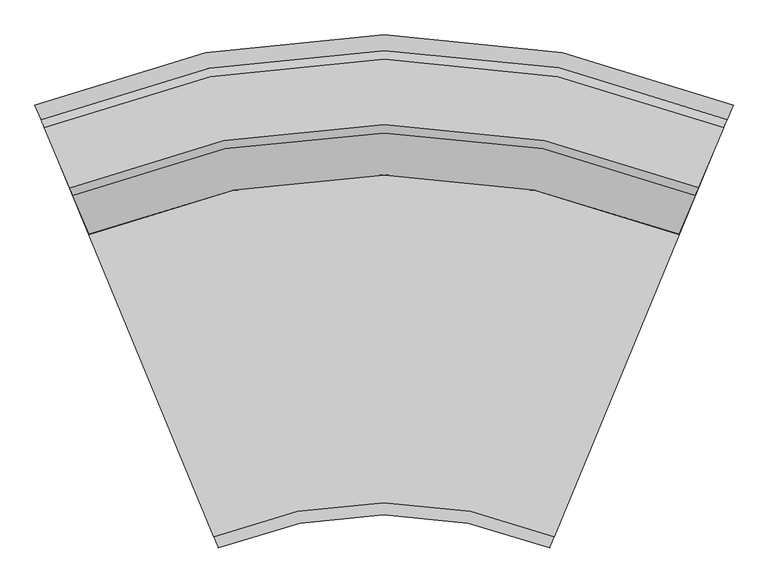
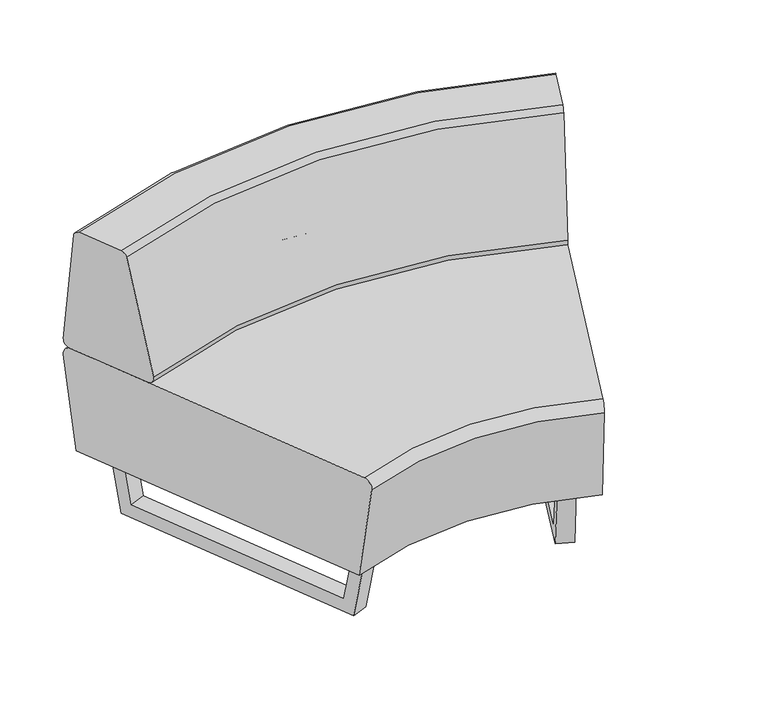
"""IFC4 building model written with IfcOpenShell, lengths in millimetres: furniture geometry, Furniture-Sofa-LyndonDesign-Us_US_8 : Furniture-Sofa-LyndonDesign-Us_US_8."""

from ifc_helpers import new_model, si_unit, point, frame, origin, place, context, project, spatial, polyline, circle_curve, ellipse_curve, trimmed, outline, extrude, source, transform, mapped, element, save
from ifc_brep_helpers import plane_surface, revolved_surface, advanced_brep


def furniture_e1e32eb0(model_context):
    return source(origin(), model_context, "Body", "SolidModel", [
        advanced_brep(
        [(-572.5992558, 632.323578, 400.0), (-495.1476878, 447.6652281, 400.0), (-488.9569699, 432.9054527, 418.8659125), (-515.8753379, 497.0836424, 688.2685098), (-521.2135992, 509.8110092, 698.9837746), (-563.1985723, 609.9106722, 699.1667853), (-568.8247333, 623.3244433, 685.8398745), (-578.872961, 647.2812099, 416.4948981), (572.6439331, 632.4239208, 400.0), (578.9150171, 647.3826518, 416.4948981), (568.8709876, 623.4241248, 685.8398745), (563.2471773, 610.009368, 699.1667853), (521.2797456, 509.9023493, 698.9837746), (515.9437147, 497.1740473, 688.2685098), (489.0365933, 432.9911416, 418.8659125), (495.2247247, 447.7520016, 400.0)],
        [
            (0, 1),
            (1, 2, circle_curve(frame((-495.1476878, 447.6652281, 416.2223431), z_axis=(-0.9221690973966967, -0.3867869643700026, 0.0), x_axis=(-0.3867869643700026, 0.9221690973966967, 0.0)), 16.2223431)),
            (2, 3, circle_curve(frame((-1085.5149144, 1855.2059744, 164.1228604), z_axis=(-0.9221690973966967, -0.3867869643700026, 0.0), x_axis=(-0.3867869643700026, 0.9221690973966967, 0.0)), 1563.2383624)),
            (3, 4, circle_curve(frame((-521.7867132, 511.1774152, 682.829243), z_axis=(-0.9221690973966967, -0.3867869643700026, 0.0), x_axis=(-0.3867869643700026, 0.9221690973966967, 0.0)), 16.2223431)),
            (4, 5, circle_curve(frame((-542.5992446, 560.7982014, 96.1803965), z_axis=(-0.9221690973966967, -0.3867869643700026, 0.0), x_axis=(-0.3867869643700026, 0.9221690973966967, 0.0)), 605.3337527)),
            (5, 6, circle_curve(frame((-562.6465308, 608.5945068, 683.0073493), z_axis=(-0.9221690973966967, -0.3867869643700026, 0.0), x_axis=(-0.3867869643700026, 0.9221690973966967, 0.0)), 16.2223431)),
            (6, 7, circle_curve(frame((81.2093216, -926.4726619, 387.8182679), z_axis=(-0.9221690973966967, -0.3867869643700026, 0.0), x_axis=(-0.3867869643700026, 0.9221690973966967, 0.0)), 1706.8193278)),
            (7, 0, circle_curve(frame((-572.5992558, 632.323578, 416.2223431), z_axis=(-0.9221690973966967, -0.3867869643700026, 0.0), x_axis=(-0.3867869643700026, 0.9221690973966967, 0.0)), 16.2223431)),
            (8, 9, circle_curve(frame((572.6439331, 632.4239208, 416.2223431), z_axis=(0.9222368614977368, -0.38662536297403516, 0.0), x_axis=(0.38662536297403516, 0.9222368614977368, 0.0)), 16.2223431)),
            (9, 10, circle_curve(frame((-80.89148, -926.4868647, 387.8182679), z_axis=(0.9222368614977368, -0.38662536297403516, 0.0), x_axis=(0.38662536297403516, 0.9222368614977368, 0.0)), 1706.8193278)),
            (10, 11, circle_curve(frame((562.6953664, 608.6931059, 683.0073493), z_axis=(0.9222368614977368, -0.38662536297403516, 0.0), x_axis=(0.38662536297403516, 0.9222368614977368, 0.0)), 16.2223431)),
            (11, 12, circle_curve(frame((542.656456, 560.8932883, 96.1803965), z_axis=(0.9222368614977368, -0.38662536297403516, 0.0), x_axis=(0.38662536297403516, 0.9222368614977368, 0.0)), 605.3337527)),
            (12, 13, circle_curve(frame((521.8526202, 511.2688558, 682.829243), z_axis=(0.9222368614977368, -0.38662536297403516, 0.0), x_axis=(0.38662536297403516, 0.9222368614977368, 0.0)), 16.2223431)),
            (13, 14, circle_curve(frame((1085.3452931, 1855.3961788, 164.1228604), z_axis=(0.9222368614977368, -0.38662536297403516, 0.0), x_axis=(0.38662536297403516, 0.9222368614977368, 0.0)), 1563.2383624)),
            (14, 15, circle_curve(frame((495.2247247, 447.7520016, 416.2223431), z_axis=(0.9222368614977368, -0.38662536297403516, 0.0), x_axis=(0.38662536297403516, 0.9222368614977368, 0.0)), 16.2223431)),
            (15, 8),
            (15, 1, circle_curve(frame((0.1419856, -733.1936765, 400.0), z_axis=(0.0, 0.0, 1.0), x_axis=(-0.38678696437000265, 0.9221690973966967, 0.0)), 1280.5231794)),
            (0, 8, circle_curve(frame((0.1419856, -733.1936765, 400.0), z_axis=(0.0, 0.0, -1.0), x_axis=(-0.38678696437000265, 0.9221690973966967, 0.0)), 1480.7666602)),
            (14, 2, circle_curve(frame((0.1419856, -733.1936765, 418.8659125), z_axis=(0.0, 0.0, 1.0), x_axis=(-0.38678696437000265, 0.9221690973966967, 0.0)), 1264.5176818)),
            (13, 3, circle_curve(frame((0.1419856, -733.1936765, 688.2685098), z_axis=(0.0, 0.0, 1.0), x_axis=(-0.38678696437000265, 0.9221690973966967, 0.0)), 1334.1124988)),
            (12, 4, circle_curve(frame((0.1419856, -733.1936765, 698.9837746), z_axis=(0.0, 0.0, 1.0), x_axis=(-0.38678696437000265, 0.9221690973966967, 0.0)), 1347.914053)),
            (11, 5, circle_curve(frame((0.1419856, -733.1936765, 699.1667853), z_axis=(0.0, 0.0, 1.0), x_axis=(-0.38678696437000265, 0.9221690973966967, 0.0)), 1456.4621093)),
            (10, 6, circle_curve(frame((0.1419856, -733.1936765, 685.8398745), z_axis=(0.0, 0.0, 1.0), x_axis=(-0.38678696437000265, 0.9221690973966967, 0.0)), 1471.0080002)),
            (9, 7, circle_curve(frame((0.1419856, -733.1936765, 416.4948981), z_axis=(0.0, 0.0, 1.0), x_axis=(-0.38678696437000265, 0.9221690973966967, 0.0)), 1496.9867135)),
        ],
        [
            plane_surface(frame((-578.9493307, 647.4632888, 400.0), z_axis=(-0.9221690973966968, -0.38678696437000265, 0.0), x_axis=(0.0, 0.0, 1.0))),
            plane_surface(frame((578.9913549, 647.5647442, 400.0), z_axis=(0.9222368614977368, -0.38662536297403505, 0.0), x_axis=(0.0, 0.0, 1.0))),
            plane_surface(frame((0.1419856, -733.1936765, 400.0), z_axis=(0.0, 0.0, -1.0), x_axis=(-0.38678696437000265, 0.9221690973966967, 0.0))),
            revolved_surface(trimmed(ellipse_curve(frame((-495.1476878, 447.6652281, 416.2223431), z_axis=(-0.9221690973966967, -0.3867869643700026, 0.0), x_axis=(-0.3867869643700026, 0.9221690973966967, 0.0)), 16.2223431, 16.2223431), [point((-495.1476878, 447.6652281, 400.0))], [point((-488.9569699, 432.9054527, 418.8659125))], True, "CARTESIAN"), (0.1419856, -733.1936765, 400.0), (0.0, 0.0, -1.0)),
            revolved_surface(trimmed(ellipse_curve(frame((-1085.5149144, 1855.2059744, 164.1228604), z_axis=(-0.9221690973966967, -0.3867869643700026, 0.0), x_axis=(-0.3867869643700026, 0.9221690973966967, 0.0)), 1563.2383624, 1563.2383624), [point((-488.9569699, 432.9054527, 418.8659125))], [point((-515.8753379, 497.0836424, 688.2685098))], True, "CARTESIAN"), (0.1419856, -733.1936765, 400.0), (0.0, 0.0, -1.0)),
            revolved_surface(trimmed(ellipse_curve(frame((-521.7867132, 511.1774152, 682.829243), z_axis=(-0.9221690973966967, -0.3867869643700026, 0.0), x_axis=(-0.3867869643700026, 0.9221690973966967, 0.0)), 16.2223431, 16.2223431), [point((-515.8753379, 497.0836424, 688.2685098))], [point((-521.2135992, 509.8110092, 698.9837746))], True, "CARTESIAN"), (0.1419856, -733.1936765, 400.0), (0.0, 0.0, -1.0)),
            revolved_surface(trimmed(ellipse_curve(frame((-542.5992446, 560.7982014, 96.1803965), z_axis=(-0.9221690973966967, -0.3867869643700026, 0.0), x_axis=(-0.3867869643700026, 0.9221690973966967, 0.0)), 605.3337527, 605.3337527), [point((-521.2135992, 509.8110092, 698.9837746))], [point((-563.1985723, 609.9106722, 699.1667853))], True, "CARTESIAN"), (0.1419856, -733.1936765, 400.0), (0.0, 0.0, -1.0)),
            revolved_surface(trimmed(ellipse_curve(frame((-562.6465308, 608.5945068, 683.0073493), z_axis=(-0.9221690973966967, -0.3867869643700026, 0.0), x_axis=(-0.3867869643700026, 0.9221690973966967, 0.0)), 16.2223431, 16.2223431), [point((-563.1985723, 609.9106722, 699.1667853))], [point((-568.8247333, 623.3244433, 685.8398745))], True, "CARTESIAN"), (0.1419856, -733.1936765, 400.0), (0.0, 0.0, -1.0)),
            revolved_surface(trimmed(ellipse_curve(frame((81.2093216, -926.4726619, 387.8182679), z_axis=(-0.9221690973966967, -0.3867869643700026, 0.0), x_axis=(-0.3867869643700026, 0.9221690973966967, 0.0)), 1706.8193278, 1706.8193278), [point((-568.8247333, 623.3244433, 685.8398745))], [point((-578.872961, 647.2812099, 416.4948981))], True, "CARTESIAN"), (0.1419856, -733.1936765, 400.0), (0.0, 0.0, -1.0)),
            revolved_surface(trimmed(ellipse_curve(frame((-572.5992558, 632.323578, 416.2223431), z_axis=(-0.9221690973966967, -0.3867869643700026, 0.0), x_axis=(-0.3867869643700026, 0.9221690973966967, 0.0)), 16.2223431, 16.2223431), [point((-578.872961, 647.2812099, 416.4948981))], [point((-572.5992558, 632.323578, 400.0))], True, "CARTESIAN"), (0.1419856, -733.1936765, 400.0), (0.0, 0.0, -1.0)),
        ],
        [
            (0, [[1, 2, 3, 4, 5, 6, 7, 8]]),
            (1, [[9, 10, 11, 12, 13, 14, 15, 16]]),
            (2, [[17, -1, 18, -16]]),
            (3, [[19, -2, -17, -15]]),
            (4, [[20, -3, -19, -14]]),
            (5, [[21, -4, -20, -13]]),
            (6, [[22, -5, -21, -12]]),
            (7, [[23, -6, -22, -11]]),
            (8, [[24, -7, -23, -10]]),
            (9, [[-18, -8, -24, -9]]),
        ],
    ),
        advanced_brep(
        [(571.3376862, 629.0871535, 400.0), (282.1461707, -69.0829254, 400.0), (274.5350749, -87.4577362, 377.8934504), (287.1059633, -57.1089268, 150.0008635), (566.3714799, 617.0976709, 150.0008635), (578.9493307, 647.4632888, 377.9070309), (-571.3376862, 629.0871535, 400.0), (-578.9493307, 647.4632888, 377.9070309), (-566.3714799, 617.0976709, 150.0008635), (-287.1059633, -57.1089268, 150.0008635), (-274.5350749, -87.4577362, 377.8934504), (-282.1461707, -69.0829254, 400.0)],
        [
            (0, 1),
            (1, 2, circle_curve(frame((282.1461707, -69.0829254, 380.0), z_axis=(0.923879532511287, -0.3826834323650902, 0.0), x_axis=(-0.3826834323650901, -0.9238795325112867, 0.0)), 20.0)),
            (2, 3, circle_curve(frame((1438.9244518, 2723.6268894, 700.1655651), z_axis=(0.923879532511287, -0.3826834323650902, 0.0), x_axis=(-0.3826834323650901, -0.9238795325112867, 0.0)), 3059.7154621)),
            (3, 4),
            (4, 5, circle_curve(frame((-562.7846627, -2108.9264025, 691.8489037), z_axis=(0.923879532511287, -0.3826834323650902, 0.0), x_axis=(-0.3826834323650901, -0.9238795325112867, 0.0)), 2999.9666901)),
            (5, 0, circle_curve(frame((571.3376862, 629.0871535, 380.0), z_axis=(0.923879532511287, -0.3826834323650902, 0.0), x_axis=(-0.3826834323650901, -0.9238795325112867, 0.0)), 20.0)),
            (6, 7, circle_curve(frame((-571.3376862, 629.0871535, 380.0), z_axis=(-0.9238795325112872, -0.38268343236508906, 0.0), x_axis=(0.3826834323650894, -0.9238795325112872, 0.0)), 20.0)),
            (7, 8, circle_curve(frame((562.7846627, -2108.9264025, 691.8489037), z_axis=(-0.9238795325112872, -0.38268343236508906, 0.0), x_axis=(0.3826834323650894, -0.9238795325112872, 0.0)), 2999.9666901)),
            (8, 9),
            (9, 10, circle_curve(frame((-1438.9244518, 2723.6268894, 700.1655651), z_axis=(-0.9238795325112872, -0.38268343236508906, 0.0), x_axis=(0.3826834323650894, -0.9238795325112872, 0.0)), 3059.7154621)),
            (10, 11, circle_curve(frame((-282.1461707, -69.0829254, 380.0), z_axis=(-0.9238795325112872, -0.38268343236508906, 0.0), x_axis=(0.3826834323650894, -0.9238795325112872, 0.0)), 20.0)),
            (11, 6),
            (11, 1, circle_curve(frame((0.0, -750.2440372, 400.0), z_axis=(0.0, 0.0, -1.0), x_axis=(0.38268343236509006, 0.9238795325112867, 0.0)), 737.2834746)),
            (0, 6, circle_curve(frame((0.0, -750.2440372, 400.0), z_axis=(0.0, 0.0, 1.0), x_axis=(0.38268343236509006, 0.9238795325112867, 0.0)), 1492.9773225)),
            (10, 2, circle_curve(frame((0.0, -750.2440372, 377.8934504), z_axis=(0.0, 0.0, -1.0), x_axis=(0.38268343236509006, 0.9238795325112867, 0.0)), 717.3947227)),
            (9, 3, circle_curve(frame((0.0, -750.2440372, 150.0008635), z_axis=(0.0, 0.0, -1.0), x_axis=(0.38268343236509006, 0.9238795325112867, 0.0)), 750.2440372)),
            (8, 4, circle_curve(frame((0.0, -750.2440372, 150.0008635), z_axis=(0.0, 0.0, -1.0), x_axis=(0.38268343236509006, 0.9238795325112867, 0.0)), 1480.0)),
            (7, 5, circle_curve(frame((0.0, -750.2440372, 377.9070309), z_axis=(0.0, 0.0, -1.0), x_axis=(0.38268343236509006, 0.9238795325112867, 0.0)), 1512.867508)),
        ],
        [
            plane_surface(frame((566.3714799, 617.0976709, 150.0008635), z_axis=(0.9238795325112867, -0.38268343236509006, 0.0), x_axis=(0.0, 0.0, 1.0))),
            plane_surface(frame((-566.3714799, 617.0976709, 150.0008635), z_axis=(-0.923879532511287, -0.38268343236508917, 0.0), x_axis=(0.0, 0.0, 1.0))),
            plane_surface(frame((0.0, -750.2440372, 400.0), z_axis=(0.0, 0.0, 1.0000000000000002), x_axis=(0.38268343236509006, 0.9238795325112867, 0.0))),
            revolved_surface(trimmed(ellipse_curve(frame((282.1461707, -69.0829254, 380.0), z_axis=(0.923879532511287, -0.3826834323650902, 0.0), x_axis=(-0.3826834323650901, -0.9238795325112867, 0.0)), 20.0, 20.0), [point((282.1461707, -69.0829254, 400.0))], [point((274.5350749, -87.4577362, 377.8934504))], True, "CARTESIAN"), (0.0, -750.2440372, 150.0008635), (0.0, 0.0, 1.0000000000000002)),
            revolved_surface(trimmed(ellipse_curve(frame((1438.9244518, 2723.6268894, 700.1655651), z_axis=(0.923879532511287, -0.3826834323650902, 0.0), x_axis=(-0.3826834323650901, -0.9238795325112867, 0.0)), 3059.7154621, 3059.7154621), [point((274.5350749, -87.4577362, 377.8934504))], [point((287.1059633, -57.1089268, 150.0008635))], True, "CARTESIAN"), (0.0, -750.2440372, 150.0008635), (0.0, 0.0, 1.0000000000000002)),
            plane_surface(frame((0.0, -750.2440372, 150.0008635), z_axis=(0.0, 0.0, -1.0000000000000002), x_axis=(0.38268343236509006, 0.9238795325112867, 0.0))),
            revolved_surface(trimmed(ellipse_curve(frame((-562.7846627, -2108.9264025, 691.8489037), z_axis=(0.923879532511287, -0.3826834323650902, 0.0), x_axis=(-0.3826834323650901, -0.9238795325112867, 0.0)), 2999.9666901, 2999.9666901), [point((566.3714799, 617.0976709, 150.0008635))], [point((578.9493307, 647.4632888, 377.9070309))], True, "CARTESIAN"), (0.0, -750.2440372, 150.0008635), (0.0, 0.0, 1.0000000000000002)),
            revolved_surface(trimmed(ellipse_curve(frame((571.3376862, 629.0871535, 380.0), z_axis=(0.923879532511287, -0.3826834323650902, 0.0), x_axis=(-0.3826834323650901, -0.9238795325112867, 0.0)), 20.0, 20.0), [point((578.9493307, 647.4632888, 377.9070309))], [point((571.3376862, 629.0871535, 400.0))], True, "CARTESIAN"), (0.0, -750.2440372, 150.0008635), (0.0, 0.0, 1.0000000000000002)),
        ],
        [
            (0, [[1, 2, 3, 4, 5, 6]]),
            (1, [[7, 8, 9, 10, 11, 12]]),
            (2, [[13, -1, 14, -12]]),
            (3, [[15, -2, -13, -11]]),
            (4, [[16, -3, -15, -10]]),
            (5, [[17, -4, -16, -9]]),
            (6, [[18, -5, -17, -8]]),
            (7, [[-14, -6, -18, -7]]),
        ],
    ),
        extrude(outline(polyline([(-144.0066093, 0.0), (8.7445146, 0.0), (-115.5018078, -645.8726429), (-257.350926, -589.2004845), (-144.0066093, 0.0)]), holes=[polyline([(-220.9387595, -569.2750721), (-133.9240701, -604.0236811), (-23.8893051, -32.027319), (-117.5831293, -31.9990166), (-220.9387595, -569.2750721)])]), frame((-250.4729164, -14.8926289, 141.4137925), z_axis=(0.9238795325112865, 0.38268343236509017, 0.0), x_axis=(0.07229123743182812, -0.1745264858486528, 0.9819951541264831)), (0.0, 0.0, 1.0), 40.0),
        extrude(outline(polyline([(-789.9948218, 0.0), (-189.9913676, 0.0), (-161.1357474, -150.0008635), (-818.850442, -150.0008635), (-789.9948218, 0.0)]), holes=[polyline([(-216.4365067, -31.992539), (-763.5634993, -31.992539), (-781.2350421, -124.0047668), (-198.7511472, -124.0047668), (-216.4365067, -31.992539)])]), frame((563.2012624, 740.1003852, 0.0), z_axis=(-0.9238795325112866, 0.38268343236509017, 0.0), x_axis=(0.38268343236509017, 0.9238795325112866, 0.0)), (0.0, 0.0, 1.0), 40.0),
    ])


if __name__ == "__main__":
    model = new_model("IFC4")
    model_context = context("Model", 3, world=origin())
    ifc_project = project(units=[si_unit("LENGTHUNIT", "METRE", prefix="MILLI")], contexts=[model_context])
    site = spatial("IfcSite", under=ifc_project)
    building = spatial("IfcBuilding", under=site)
    placement = place(None, origin())
    furniture_shape = furniture_e1e32eb0(model_context)
    element("IfcFurniture", 1, ObjectType="Furniture-Sofa-LyndonDesign-Us_US_8 : Furniture-Sofa-LyndonDesign-Us_US_8", at=placement, inside=building, context=model_context, shape_type="MappedRepresentation", body=[
        mapped(furniture_shape, transform((0.0, 0.0, 0.0), x_axis=(1.0, 0.0, 0.0), y_axis=(0.0, 1.0, 0.0), z_axis=(0.0, 0.0, 1.0))),
    ])
    save(model, "model.ifc")
